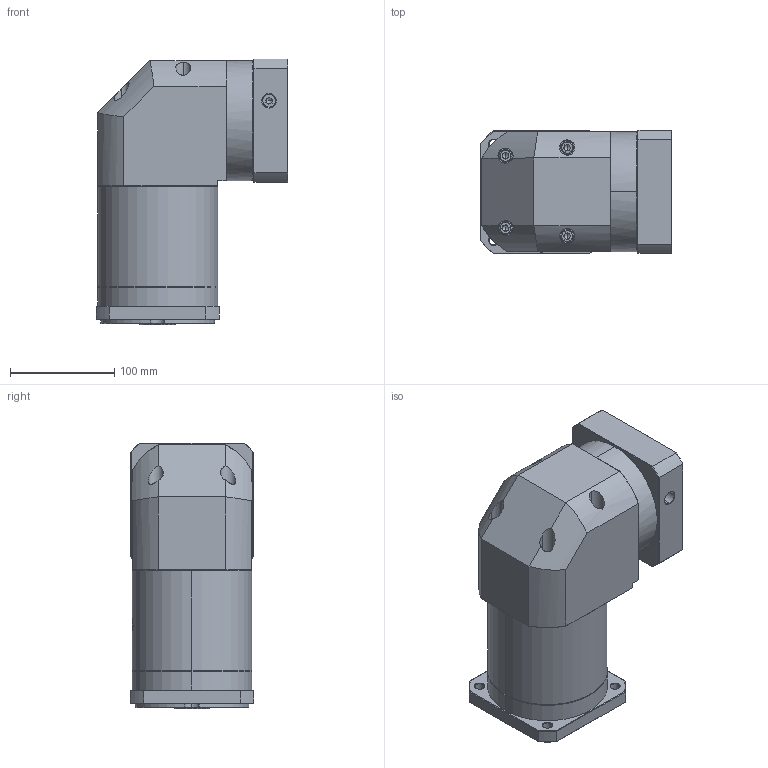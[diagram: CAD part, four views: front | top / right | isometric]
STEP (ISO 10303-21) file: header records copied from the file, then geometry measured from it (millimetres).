
FILE_DESCRIPTION (( 'STEP AP214' ), '1' );
FILE_NAME ('ZFR120A-K25-L3-P2-24-95-115-M6.step', '2023-08-27T08:18:11', ( '' ), ( '' ), 'SwSTEP 2.0', 'SolidWorks 2016', '' );
FILE_SCHEMA (( 'AUTOMOTIVE_DESIGN' ));
Length unit declared in the file: millimetre
Products named in the file (1): ZFR120A-K25-L3-P2-24-95-115-M6
Bounding box: 183.9 x 118 x 255 mm (x, y, z)
Volume: 3340979.5 mm3; surface area: 254156.9 mm2
Topology: 6 solids, 6 shells, 2196 faces, 5785 edges, 3693 vertices
Faces by surface type: plane 1053, bspline 419, cylinder 386, cone 330, torus 8
Entity records: 118957 total; most frequent: CARTESIAN_POINT 45821, ORIENTED_EDGE 11514, DIRECTION 8367, EDGE_CURVE 5757, VERTEX_POINT 3693, VECTOR 3085, LINE 3085, AXIS2_PLACEMENT_3D 2641
